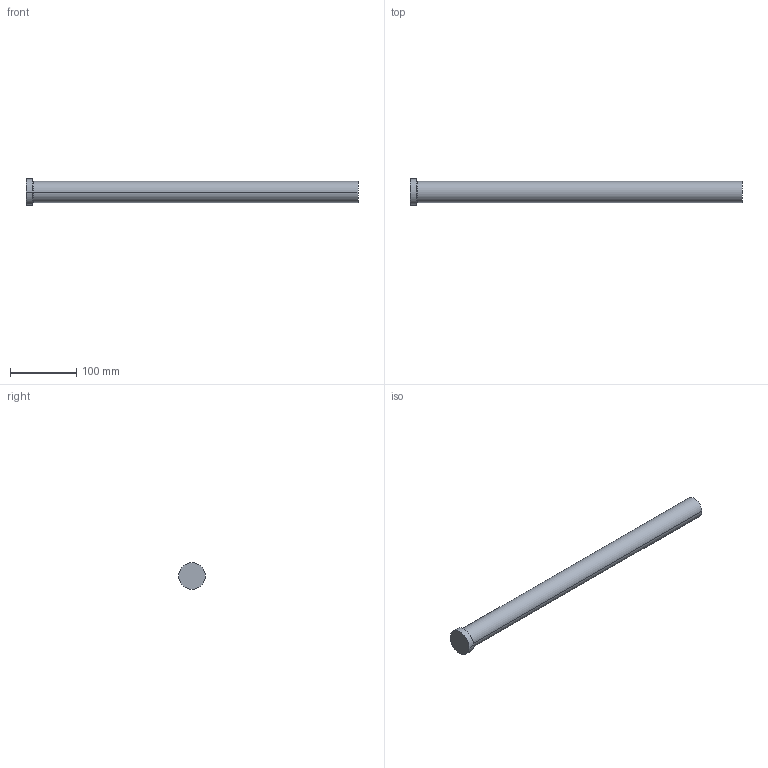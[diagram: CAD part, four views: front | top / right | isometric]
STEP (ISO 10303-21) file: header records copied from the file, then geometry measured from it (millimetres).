
FILE_DESCRIPTION (( 'STEP AP214' ), '1' );
FILE_NAME ('A-32x500.STEP', '2020-05-29T16:30:45', ( 'August' ), ( '' ), 'SwSTEP 2.0', 'SolidWorks 2018', '' );
FILE_SCHEMA (( 'AUTOMOTIVE_DESIGN' ));
Length unit declared in the file: millimetre
Products named in the file (1): A-32x500
Bounding box: 500 x 40 x 40 mm (x, y, z)
Volume: 406669.6 mm3; surface area: 52987.4 mm2
Topology: 1 solids, 1 shells, 9 faces, 16 edges, 10 vertices
Faces by surface type: cylinder 4, plane 3, torus 2
Entity records: 260 total; most frequent: DIRECTION 48, CARTESIAN_POINT 36, ORIENTED_EDGE 32, AXIS2_PLACEMENT_3D 22, EDGE_CURVE 16, CIRCLE 12, VERTEX_POINT 10, EDGE_LOOP 10
